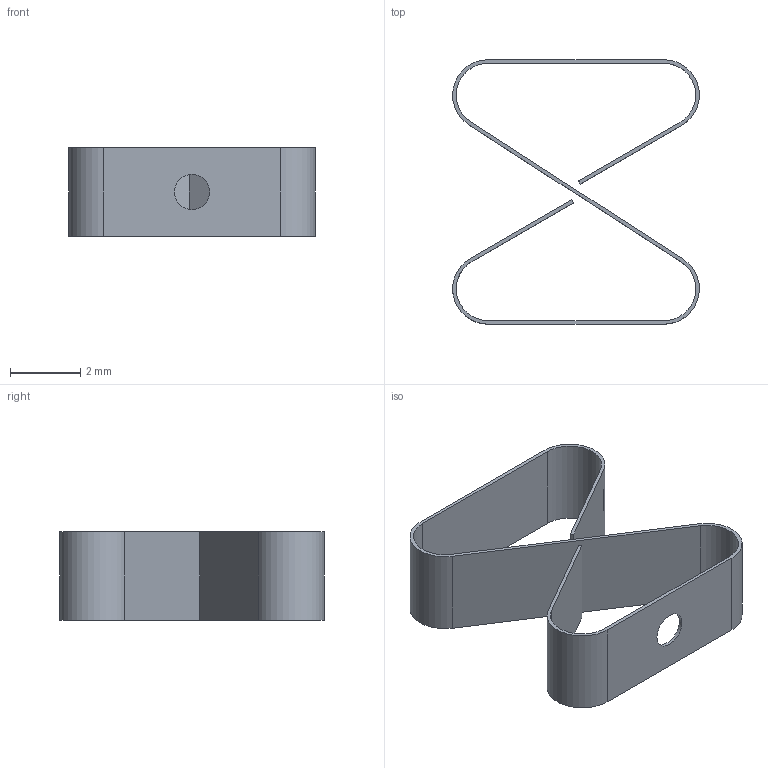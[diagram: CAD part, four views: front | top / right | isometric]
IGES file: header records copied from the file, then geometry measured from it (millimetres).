
Start section:  PTC IGES file: 8S2570075B.igs
Global section: file name: 8S2570075B.igs; native system: Creo Parametric by PTC Inc.; preprocessor: 2015200; author: jairo; organization: Unknown; date: 20180327.115813; units: millimetre
Bounding box: 7 x 7.5 x 2.5 mm (x, y, z)
Surface area: 174.4 mm2 (no closed solid volume)
Topology: 0 solids, 0 shells, 24 faces, 132 edges, 132 vertices
Faces by surface type: bspline 14, revolution 10
